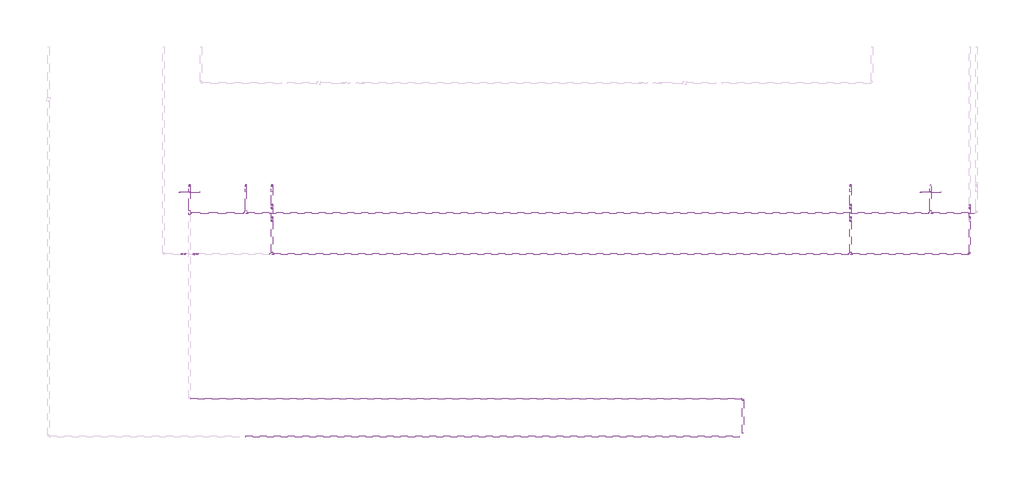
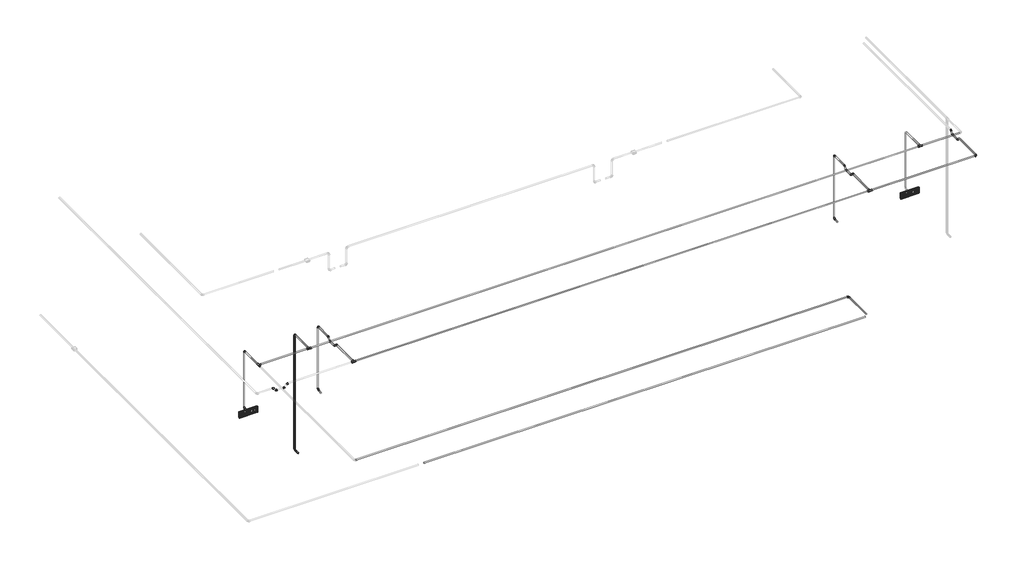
# One storey, part 3 of 13: 35 cable carrier segments, 30 cable carrier fittings, 2 alarms.
"""IFC4 building model written with IfcOpenShell, lengths in millimetres."""

from ifc_helpers import new_model, si_unit, point, frame, frame_2d, origin, place, context, project, spatial, circle_curve, trimmed, segment, composite_curve, outline, extrude, transform, mapped, element, save
from components import alarm_4b7e8fd8, cable_carrier_fitting_69f1a801, cable_carrier_fitting_8122f9af, cable_carrier_fitting_8fd13dfc

model = new_model("IFC4")

# Units and contexts
model_context = context("Model", 3, world=origin())
ifc_project = project(units=[si_unit("LENGTHUNIT", "METRE", prefix="MILLI")], contexts=[model_context])

# Site, building, storey
site = spatial("IfcSite", under=ifc_project)
building = spatial("IfcBuilding", under=site)
storey = spatial("IfcBuildingStorey", under=building, Name="2 этаж", Elevation=3500.0)

# Alarms
placement = place(None, origin())
alarm_shape = alarm_4b7e8fd8(model_context)
element("IfcAlarm", 1, ObjectType="RBZ_Оповещатель_Световой_Рубеж_ОПОП1-R3(грань) : ОПОП 1-R3 \"Выход\"", at=placement, inside=storey, context=model_context, shape_type="MappedRepresentation", body=[
    mapped(alarm_shape, transform((8337.6759979, -195.3629895, 6000.0), x_axis=(1.0, 0.0, 0.0), y_axis=(0.0, 0.0, 1.0), z_axis=(0.0, -1.0, 0.0))),
])
element("IfcAlarm", 2, ObjectType="RBZ_Оповещатель_Световой_Рубеж_ОПОП1-R3(грань) : ОПОП 1-R3 \"Выход\"", at=placement, inside=storey, context=model_context, shape_type="MappedRepresentation", body=[
    mapped(alarm_shape, transform((19112.6759979, -195.3629895, 6000.0), x_axis=(1.0, 0.0, 0.0), y_axis=(0.0, 0.0, 1.0), z_axis=(0.0, -1.0, 0.0))),
])

# Cable carrier fittings
cable_carrier_fitting_shape = cable_carrier_fitting_69f1a801(model_context)
element("IfcCableCarrierFitting", 3, ObjectType="ADSK_Поворот_Минимальный размер : Неспецифицируемый", at=placement, inside=storey, context=model_context, shape_type="MappedRepresentation", body=[
    mapped(cable_carrier_fitting_shape, transform((16387.6759979, -3208.8629895, 6986.95), x_axis=(0.0, 1.0, 0.0), y_axis=(-1.0, 0.0, 0.0), z_axis=(0.0, 0.0, 1.0))),
])
element("IfcCableCarrierFitting", 4, ObjectType="ADSK_Поворот_Минимальный размер : Неспецифицируемый", at=placement, inside=storey, context=model_context, shape_type="MappedRepresentation", body=[
    mapped(cable_carrier_fitting_shape, transform((17947.6759979, -98.1631839, 5897.4861504), x_axis=(0.0, 1.0, 0.0), y_axis=(0.0, 0.0, 1.0), z_axis=(1.0, 0.0, 0.0))),
])
element("IfcCableCarrierFitting", 5, ObjectType="ADSK_Поворот_Минимальный размер : Неспецифицируемый", at=placement, inside=storey, context=model_context, shape_type="MappedRepresentation", body=[
    mapped(cable_carrier_fitting_shape, transform((17947.6759979, -98.1631839, 6990.0), x_axis=(0.0, 0.0, 1.0), y_axis=(0.0, -1.0, 0.0), z_axis=(1.0, 0.0, 0.0))),
])
element("IfcCableCarrierFitting", 6, ObjectType="ADSK_Поворот_Минимальный размер : Неспецифицируемый", at=placement, inside=storey, context=model_context, shape_type="MappedRepresentation", body=[
    mapped(cable_carrier_fitting_shape, transform((9537.6759979, -98.1631839, 5897.4861504), x_axis=(0.0, 1.0, 0.0), y_axis=(0.0, 0.0, 1.0), z_axis=(1.0, 0.0, 0.0))),
])
element("IfcCableCarrierFitting", 7, ObjectType="ADSK_Поворот_Минимальный размер : Неспецифицируемый", at=placement, inside=storey, context=model_context, shape_type="MappedRepresentation", body=[
    mapped(cable_carrier_fitting_shape, transform((9537.6759979, -98.1631839, 6990.0), x_axis=(0.0, 0.0, 1.0), y_axis=(0.0, -1.0, 0.0), z_axis=(1.0, 0.0, 0.0))),
])
element("IfcCableCarrierFitting", 8, ObjectType="ADSK_Поворот_Минимальный размер : Неспецифицируемый", at=placement, inside=storey, context=model_context, shape_type="MappedRepresentation", body=[
    mapped(cable_carrier_fitting_shape, transform((8337.6759979, -98.1631839, 6000.0), x_axis=(0.0, 1.0, 0.0), y_axis=(0.0, 0.0, 1.0), z_axis=(1.0, 0.0, 0.0))),
])
element("IfcCableCarrierFitting", 9, ObjectType="ADSK_Поворот_Минимальный размер : Неспецифицируемый", at=placement, inside=storey, context=model_context, shape_type="MappedRepresentation", body=[
    mapped(cable_carrier_fitting_shape, transform((8337.6759979, -98.1631839, 6986.95), x_axis=(0.0, 0.0, 1.0), y_axis=(0.0, -1.0, 0.0), z_axis=(1.0, 0.0, 0.0))),
])
element("IfcCableCarrierFitting", 10, ObjectType="ADSK_Поворот_Минимальный размер : Неспецифицируемый", at=placement, inside=storey, context=model_context, shape_type="MappedRepresentation", body=[
    mapped(cable_carrier_fitting_shape, transform((9157.6759979, -98.1631839, 5000.0), x_axis=(0.0, 1.0, 0.0), y_axis=(0.0, 0.0, 1.0), z_axis=(1.0, 0.0, 0.0))),
])
element("IfcCableCarrierFitting", 11, ObjectType="ADSK_Поворот_Минимальный размер : Неспецифицируемый", at=placement, inside=storey, context=model_context, shape_type="MappedRepresentation", body=[
    mapped(cable_carrier_fitting_shape, transform((9157.6759979, -98.1631839, 6986.95), x_axis=(0.0, 0.0, 1.0), y_axis=(0.0, -1.0, 0.0), z_axis=(1.0, 0.0, 0.0))),
])
element("IfcCableCarrierFitting", 12, ObjectType="ADSK_Поворот_Минимальный размер : Неспецифицируемый", at=placement, inside=storey, context=model_context, shape_type="MappedRepresentation", body=[
    mapped(cable_carrier_fitting_shape, transform((19682.6759979, -1105.3629895, 6990.0), x_axis=(1.0, 0.0, 0.0), y_axis=(0.0, 1.0, 0.0), z_axis=(0.0, 0.0, 1.0))),
])
cable_carrier_fitting_2_shape = cable_carrier_fitting_8122f9af(model_context)
element("IfcCableCarrierFitting", 13, ObjectType="ADSK_Поворот_Минимальный размер : Неспецифицируемый", at=placement, inside=storey, context=model_context, shape_type="MappedRepresentation", body=[
    mapped(cable_carrier_fitting_2_shape, transform((8454.2482691, -1105.3629895, 6990.0), x_axis=(-1.0, 0.0, 0.0), y_axis=(0.0, 0.0, -1.0), z_axis=(0.0, -1.0, 0.0))),
])
element("IfcCableCarrierFitting", 14, ObjectType="ADSK_Поворот_Минимальный размер : Неспецифицируемый", at=placement, inside=storey, context=model_context, shape_type="MappedRepresentation", body=[
    mapped(cable_carrier_fitting_2_shape, transform((8404.2482691, -1105.3629895, 6940.0), x_axis=(-0.707106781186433, 0.0, -0.7071067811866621), y_axis=(-0.7071067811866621, 0.0, 0.707106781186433), z_axis=(0.0, 1.0, 0.0))),
])
element("IfcCableCarrierFitting", 15, ObjectType="ADSK_Поворот_Минимальный размер : Неспецифицируемый", at=placement, inside=storey, context=model_context, shape_type="MappedRepresentation", body=[
    mapped(cable_carrier_fitting_2_shape, transform((8277.6721838, -1105.3629895, 6940.0), x_axis=(-1.0, 0.0, 0.0), y_axis=(0.0, 0.0, 1.0), z_axis=(0.0, 1.0, 0.0))),
])
element("IfcCableCarrierFitting", 16, ObjectType="ADSK_Поворот_Минимальный размер : Неспецифицируемый", at=placement, inside=storey, context=model_context, shape_type="MappedRepresentation", body=[
    mapped(cable_carrier_fitting_2_shape, transform((9537.6759979, -621.9352607, 6990.0), x_axis=(0.0, 1.0, 0.0), y_axis=(0.0, 0.0, -1.0), z_axis=(-1.0, 0.0, 0.0))),
])
element("IfcCableCarrierFitting", 17, ObjectType="ADSK_Поворот_Минимальный размер : Неспецифицируемый", at=placement, inside=storey, context=model_context, shape_type="MappedRepresentation", body=[
    mapped(cable_carrier_fitting_2_shape, transform((9537.6759979, -571.9352607, 6940.0), x_axis=(0.0, 0.7071067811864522, -0.7071067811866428), y_axis=(0.0, 0.7071067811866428, 0.7071067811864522), z_axis=(1.0, 0.0, 0.0))),
])
element("IfcCableCarrierFitting", 18, ObjectType="ADSK_Поворот_Минимальный размер : Неспецифицируемый", at=placement, inside=storey, context=model_context, shape_type="MappedRepresentation", body=[
    mapped(cable_carrier_fitting_2_shape, transform((9537.6759979, -438.7907182, 6940.0), x_axis=(0.0, 1.0, 0.0), y_axis=(0.0, 0.0, 1.0), z_axis=(1.0, 0.0, 0.0))),
])
element("IfcCableCarrierFitting", 19, ObjectType="ADSK_Поворот_Минимальный размер : Неспецифицируемый", at=placement, inside=storey, context=model_context, shape_type="MappedRepresentation", body=[
    mapped(cable_carrier_fitting_2_shape, transform((9537.6759979, -388.7907182, 6990.0), x_axis=(0.0, 0.7071067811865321, 0.707106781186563), y_axis=(0.0, 0.707106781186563, -0.7071067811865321), z_axis=(-1.0, 0.0, 0.0))),
])
element("IfcCableCarrierFitting", 20, ObjectType="ADSK_Поворот_Минимальный размер : Неспецифицируемый", at=placement, inside=storey, context=model_context, shape_type="MappedRepresentation", body=[
    mapped(cable_carrier_fitting_2_shape, transform((17947.6759979, -621.9352607, 6990.0), x_axis=(0.0, 1.0, 0.0), y_axis=(0.0, 0.0, -1.0), z_axis=(-1.0, 0.0, 0.0))),
])
element("IfcCableCarrierFitting", 21, ObjectType="ADSK_Поворот_Минимальный размер : Неспецифицируемый", at=placement, inside=storey, context=model_context, shape_type="MappedRepresentation", body=[
    mapped(cable_carrier_fitting_2_shape, transform((17947.6759979, -571.9352607, 6940.0), x_axis=(0.0, 0.7071067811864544, -0.7071067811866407), y_axis=(0.0, 0.7071067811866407, 0.7071067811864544), z_axis=(1.0, 0.0, 0.0))),
])
element("IfcCableCarrierFitting", 22, ObjectType="ADSK_Поворот_Минимальный размер : Неспецифицируемый", at=placement, inside=storey, context=model_context, shape_type="MappedRepresentation", body=[
    mapped(cable_carrier_fitting_2_shape, transform((17947.6759979, -438.7907182, 6940.0), x_axis=(0.0, 1.0, 0.0), y_axis=(0.0, 0.0, 1.0), z_axis=(1.0, 0.0, 0.0))),
])
element("IfcCableCarrierFitting", 23, ObjectType="ADSK_Поворот_Минимальный размер : Неспецифицируемый", at=placement, inside=storey, context=model_context, shape_type="MappedRepresentation", body=[
    mapped(cable_carrier_fitting_2_shape, transform((17947.6759979, -388.7907182, 6990.0), x_axis=(0.0, 0.7071067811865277, 0.7071067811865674), y_axis=(0.0, 0.7071067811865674, -0.7071067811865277), z_axis=(-1.0, 0.0, 0.0))),
])
element("IfcCableCarrierFitting", 24, ObjectType="ADSK_Поворот_Минимальный размер : Неспецифицируемый", at=placement, inside=storey, context=model_context, shape_type="MappedRepresentation", body=[
    mapped(cable_carrier_fitting_2_shape, transform((19682.6759979, -388.7907182, 6990.0), x_axis=(0.0, -1.0, 0.0), y_axis=(0.0, 0.0, -1.0), z_axis=(1.0, 0.0, 0.0))),
])
element("IfcCableCarrierFitting", 25, ObjectType="ADSK_Поворот_Минимальный размер : Неспецифицируемый", at=placement, inside=storey, context=model_context, shape_type="MappedRepresentation", body=[
    mapped(cable_carrier_fitting_2_shape, transform((19682.6759979, -438.7907182, 6940.0), x_axis=(0.0, -0.7071067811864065, -0.7071067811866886), y_axis=(0.0, -0.7071067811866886, 0.7071067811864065), z_axis=(-1.0, 0.0, 0.0))),
])
element("IfcCableCarrierFitting", 26, ObjectType="ADSK_Поворот_Минимальный размер : Неспецифицируемый", at=placement, inside=storey, context=model_context, shape_type="MappedRepresentation", body=[
    mapped(cable_carrier_fitting_2_shape, transform((19682.6759979, -571.9352607, 6940.0), x_axis=(0.0, -1.0, 0.0), y_axis=(0.0, 0.0, 1.0), z_axis=(-1.0, 0.0, 0.0))),
])
element("IfcCableCarrierFitting", 27, ObjectType="ADSK_Поворот_Минимальный размер : Неспецифицируемый", at=placement, inside=storey, context=model_context, shape_type="MappedRepresentation", body=[
    mapped(cable_carrier_fitting_2_shape, transform((8227.6721838, -1105.3629895, 6990.0), x_axis=(-0.7071067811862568, 0.0, 0.7071067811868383), y_axis=(-0.7071067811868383, 0.0, -0.7071067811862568), z_axis=(0.0, -1.0, 0.0))),
])
cable_carrier_fitting_3_shape = cable_carrier_fitting_8fd13dfc(model_context)
element("IfcCableCarrierFitting", 28, ObjectType="ADSK_Тройник : ПВХ", at=placement, inside=storey, context=model_context, shape_type="MappedRepresentation", body=[
    mapped(cable_carrier_fitting_3_shape, transform((8337.6759979, -505.3629895, 6986.95), x_axis=(0.0, 1.0, 0.0), y_axis=(-1.0, 0.0, 0.0), z_axis=(0.0, 0.0, 1.0))),
])
element("IfcCableCarrierFitting", 29, ObjectType="ADSK_Тройник : ПВХ", at=placement, inside=storey, context=model_context, shape_type="MappedRepresentation", body=[
    mapped(cable_carrier_fitting_3_shape, transform((9157.6759979, -505.3629895, 6986.95), x_axis=(-1.0, 0.0, 0.0), y_axis=(0.0, -1.0, 0.0), z_axis=(0.0, 0.0, 1.0))),
])
element("IfcCableCarrierFitting", 30, ObjectType="ADSK_Тройник : ПВХ", at=placement, inside=storey, context=model_context, shape_type="MappedRepresentation", body=[
    mapped(cable_carrier_fitting_3_shape, transform((19112.6759979, -505.3629895, 6986.95), x_axis=(-1.0, 0.0, 0.0), y_axis=(0.0, -1.0, 0.0), z_axis=(0.0, 0.0, 1.0))),
])
element("IfcCableCarrierFitting", 31, ObjectType="ADSK_Тройник : ПВХ", at=placement, inside=storey, context=model_context, shape_type="MappedRepresentation", body=[
    mapped(cable_carrier_fitting_3_shape, transform((17947.6759979, -1105.3629895, 6990.0), x_axis=(-1.0, 0.0, 0.0), y_axis=(0.0, -1.0, 0.0), z_axis=(0.0, 0.0, 1.0))),
])
element("IfcCableCarrierFitting", 32, ObjectType="ADSK_Тройник : ПВХ", at=placement, inside=storey, context=model_context, shape_type="MappedRepresentation", body=[
    mapped(cable_carrier_fitting_3_shape, transform((9537.6759979, -1105.3629895, 6990.0), x_axis=(-1.0, 0.0, 0.0), y_axis=(0.0, -1.0, 0.0), z_axis=(0.0, 0.0, 1.0))),
])

# Cable carrier segments
element("IfcCableCarrierSegment", 33, ObjectType="Гофрированная труба", at=placement, inside=storey, context=model_context, shape_type="SweptSolid", body=[
    extrude(outline(composite_curve([segment(trimmed(circle_curve(frame_2d((-3755.3629895, 6986.95)), 10.0), [point((-3745.3629895, 6986.95))], [point((-3755.3629895, 6976.95))], False, "CARTESIAN"), True, "CONTINUOUS"), segment(trimmed(circle_curve(frame_2d((-3755.3629895, 6986.95)), 10.0), [point((-3755.3629895, 6976.95))], [point((-3765.3629895, 6986.95))], False, "CARTESIAN"), True, "CONTINUOUS"), segment(trimmed(circle_curve(frame_2d((-3755.3629895, 6986.95)), 10.0), [point((-3765.3629895, 6986.95))], [point((-3755.3629895, 6996.95))], False, "CARTESIAN"), True, "CONTINUOUS"), segment(trimmed(circle_curve(frame_2d((-3755.3629895, 6986.95)), 10.0), [point((-3755.3629895, 6996.95))], [point((-3745.3629895, 6986.95))], False, "CARTESIAN"), True, "CONTINUOUS")], self_intersect=False)), frame((9154.1759979, 0.0, 0.0), z_axis=(1.0, 0.0, 0.0), x_axis=(0.0, 1.0, 0.0)), (0.0, 0.0, 1.0), 7187.0),
])
element("IfcCableCarrierSegment", 34, ObjectType="Гофрированная труба", at=placement, inside=storey, context=model_context, shape_type="SweptSolid", body=[
    extrude(outline(composite_curve([segment(trimmed(circle_curve(frame_2d((6986.95, 16387.6759979)), 10.0), [point((6986.95, 16397.6759979))], [point((6996.95, 16387.6759979))], False, "CARTESIAN"), True, "CONTINUOUS"), segment(trimmed(circle_curve(frame_2d((6986.95, 16387.6759979)), 10.0), [point((6996.95, 16387.6759979))], [point((6986.95, 16377.6759979))], False, "CARTESIAN"), True, "CONTINUOUS"), segment(trimmed(circle_curve(frame_2d((6986.95, 16387.6759979)), 10.0), [point((6986.95, 16377.6759979))], [point((6976.95, 16387.6759979))], False, "CARTESIAN"), True, "CONTINUOUS"), segment(trimmed(circle_curve(frame_2d((6986.95, 16387.6759979)), 10.0), [point((6976.95, 16387.6759979))], [point((6986.95, 16397.6759979))], False, "CARTESIAN"), True, "CONTINUOUS")], self_intersect=False)), frame((0.0, -3708.8629895, 0.0), z_axis=(0.0, 1.0, 0.0), x_axis=(0.0, 0.0, 1.0)), (0.0, 0.0, 1.0), 479.0),
])
element("IfcCableCarrierSegment", 35, ObjectType="Гофрированная труба", at=placement, inside=storey, context=model_context, shape_type="SweptSolid", body=[
    extrude(outline(composite_curve([segment(trimmed(circle_curve(frame_2d((-3208.8629895, 6986.95)), 10.0), [point((-3198.8629895, 6986.95))], [point((-3208.8629895, 6976.95))], False, "CARTESIAN"), True, "CONTINUOUS"), segment(trimmed(circle_curve(frame_2d((-3208.8629895, 6986.95)), 10.0), [point((-3208.8629895, 6976.95))], [point((-3218.8629895, 6986.95))], False, "CARTESIAN"), True, "CONTINUOUS"), segment(trimmed(circle_curve(frame_2d((-3208.8629895, 6986.95)), 10.0), [point((-3218.8629895, 6986.95))], [point((-3208.8629895, 6996.95))], False, "CARTESIAN"), True, "CONTINUOUS"), segment(trimmed(circle_curve(frame_2d((-3208.8629895, 6986.95)), 10.0), [point((-3208.8629895, 6996.95))], [point((-3198.8629895, 6986.95))], False, "CARTESIAN"), True, "CONTINUOUS")], self_intersect=False)), frame((8358.6759979, 0.0, 0.0), z_axis=(1.0, 0.0, 0.0), x_axis=(0.0, 1.0, 0.0)), (0.0, 0.0, 1.0), 8008.0),
])
element("IfcCableCarrierSegment", 36, ObjectType="Гофрированная труба", at=placement, inside=storey, context=model_context, shape_type="SweptSolid", body=[
    extrude(outline(composite_curve([segment(trimmed(circle_curve(frame_2d((-505.3629895, 6986.95)), 10.0), [point((-515.3629895, 6986.95))], [point((-505.3629895, 6996.95))], False, "CARTESIAN"), True, "CONTINUOUS"), segment(trimmed(circle_curve(frame_2d((-505.3629895, 6986.95)), 10.0), [point((-505.3629895, 6996.95))], [point((-495.3629895, 6986.95))], False, "CARTESIAN"), True, "CONTINUOUS"), segment(trimmed(circle_curve(frame_2d((-505.3629895, 6986.95)), 10.0), [point((-495.3629895, 6986.95))], [point((-505.3629895, 6976.95))], False, "CARTESIAN"), True, "CONTINUOUS"), segment(trimmed(circle_curve(frame_2d((-505.3629895, 6986.95)), 10.0), [point((-505.3629895, 6976.95))], [point((-515.3629895, 6986.95))], False, "CARTESIAN"), True, "CONTINUOUS")], self_intersect=False)), frame((19142.6759979, 0.0, 0.0), z_axis=(1.0, 0.0, 0.0), x_axis=(0.0, 1.0, 0.0)), (0.0, 0.0, 1.0), 619.0),
])
element("IfcCableCarrierSegment", 37, ObjectType="Гофрированная труба", at=placement, inside=storey, context=model_context, shape_type="SweptSolid", body=[
    extrude(outline(composite_curve([segment(trimmed(circle_curve(frame_2d((-505.3629895, 6986.95)), 10.0), [point((-515.3629895, 6986.95))], [point((-505.3629895, 6996.95))], False, "CARTESIAN"), True, "CONTINUOUS"), segment(trimmed(circle_curve(frame_2d((-505.3629895, 6986.95)), 10.0), [point((-505.3629895, 6996.95))], [point((-495.3629895, 6986.95))], False, "CARTESIAN"), True, "CONTINUOUS"), segment(trimmed(circle_curve(frame_2d((-505.3629895, 6986.95)), 10.0), [point((-495.3629895, 6986.95))], [point((-505.3629895, 6976.95))], False, "CARTESIAN"), True, "CONTINUOUS"), segment(trimmed(circle_curve(frame_2d((-505.3629895, 6986.95)), 10.0), [point((-505.3629895, 6976.95))], [point((-515.3629895, 6986.95))], False, "CARTESIAN"), True, "CONTINUOUS")], self_intersect=False)), frame((8367.6759979, 0.0, 0.0), z_axis=(1.0, 0.0, 0.0), x_axis=(0.0, 1.0, 0.0)), (0.0, 0.0, 1.0), 760.0),
])
element("IfcCableCarrierSegment", 38, ObjectType="Гофрированная труба", at=placement, inside=storey, context=model_context, shape_type="SweptSolid", body=[
    extrude(outline(composite_curve([segment(trimmed(circle_curve(frame_2d((-505.3629895, 6986.95)), 10.0), [point((-515.3629895, 6986.95))], [point((-505.3629895, 6996.95))], False, "CARTESIAN"), True, "CONTINUOUS"), segment(trimmed(circle_curve(frame_2d((-505.3629895, 6986.95)), 10.0), [point((-505.3629895, 6996.95))], [point((-495.3629895, 6986.95))], False, "CARTESIAN"), True, "CONTINUOUS"), segment(trimmed(circle_curve(frame_2d((-505.3629895, 6986.95)), 10.0), [point((-495.3629895, 6986.95))], [point((-505.3629895, 6976.95))], False, "CARTESIAN"), True, "CONTINUOUS"), segment(trimmed(circle_curve(frame_2d((-505.3629895, 6986.95)), 10.0), [point((-505.3629895, 6976.95))], [point((-515.3629895, 6986.95))], False, "CARTESIAN"), True, "CONTINUOUS")], self_intersect=False)), frame((9187.6759979, 0.0, 0.0), z_axis=(1.0, 0.0, 0.0), x_axis=(0.0, 1.0, 0.0)), (0.0, 0.0, 1.0), 9895.0),
])
element("IfcCableCarrierSegment", 39, ObjectType="Гофрированная труба", at=placement, inside=storey, context=model_context, shape_type="SweptSolid", body=[
    extrude(outline(composite_curve([segment(trimmed(circle_curve(frame_2d((6940.0, 19682.6759979)), 10.0), [point((6940.0, 19672.6759979))], [point((6930.0, 19682.6759979))], False, "CARTESIAN"), True, "CONTINUOUS"), segment(trimmed(circle_curve(frame_2d((6940.0, 19682.6759979)), 10.0), [point((6930.0, 19682.6759979))], [point((6940.0, 19692.6759979))], False, "CARTESIAN"), True, "CONTINUOUS"), segment(trimmed(circle_curve(frame_2d((6940.0, 19682.6759979)), 10.0), [point((6940.0, 19692.6759979))], [point((6950.0, 19682.6759979))], False, "CARTESIAN"), True, "CONTINUOUS"), segment(trimmed(circle_curve(frame_2d((6940.0, 19682.6759979)), 10.0), [point((6950.0, 19682.6759979))], [point((6940.0, 19672.6759979))], False, "CARTESIAN"), True, "CONTINUOUS")], self_intersect=False)), frame((0.0, -562.6509895, 0.0), z_axis=(0.0, 1.0, 0.0), x_axis=(0.0, 0.0, 1.0)), (0.0, 0.0, 1.0), 114.576),
])
element("IfcCableCarrierSegment", 40, ObjectType="Гофрированная труба", at=placement, inside=storey, context=model_context, shape_type="SweptSolid", body=[
    extrude(outline(composite_curve([segment(trimmed(circle_curve(frame_2d((6940.0, 17947.6759979)), 10.0), [point((6940.0, 17957.6759979))], [point((6950.0, 17947.6759979))], False, "CARTESIAN"), True, "CONTINUOUS"), segment(trimmed(circle_curve(frame_2d((6940.0, 17947.6759979)), 10.0), [point((6950.0, 17947.6759979))], [point((6940.0, 17937.6759979))], False, "CARTESIAN"), True, "CONTINUOUS"), segment(trimmed(circle_curve(frame_2d((6940.0, 17947.6759979)), 10.0), [point((6940.0, 17937.6759979))], [point((6930.0, 17947.6759979))], False, "CARTESIAN"), True, "CONTINUOUS"), segment(trimmed(circle_curve(frame_2d((6940.0, 17947.6759979)), 10.0), [point((6930.0, 17947.6759979))], [point((6940.0, 17957.6759979))], False, "CARTESIAN"), True, "CONTINUOUS")], self_intersect=False)), frame((0.0, -562.6509895, 0.0), z_axis=(0.0, 1.0, 0.0), x_axis=(0.0, 0.0, 1.0)), (0.0, 0.0, 1.0), 114.576),
])
element("IfcCableCarrierSegment", 41, ObjectType="Гофрированная труба", at=placement, inside=storey, context=model_context, shape_type="SweptSolid", body=[
    extrude(outline(composite_curve([segment(trimmed(circle_curve(frame_2d((5897.4861504, 17947.6759979)), 10.0), [point((5897.4861504, 17957.6759979))], [point((5907.4861504, 17947.6759979))], False, "CARTESIAN"), True, "CONTINUOUS"), segment(trimmed(circle_curve(frame_2d((5897.4861504, 17947.6759979)), 10.0), [point((5907.4861504, 17947.6759979))], [point((5897.4861504, 17937.6759979))], False, "CARTESIAN"), True, "CONTINUOUS"), segment(trimmed(circle_curve(frame_2d((5897.4861504, 17947.6759979)), 10.0), [point((5897.4861504, 17937.6759979))], [point((5887.4861504, 17947.6759979))], False, "CARTESIAN"), True, "CONTINUOUS"), segment(trimmed(circle_curve(frame_2d((5897.4861504, 17947.6759979)), 10.0), [point((5887.4861504, 17947.6759979))], [point((5897.4861504, 17957.6759979))], False, "CARTESIAN"), True, "CONTINUOUS")], self_intersect=False)), frame((0.0, -195.3629895, 0.0), z_axis=(0.0, 1.0, 0.0), x_axis=(0.0, 0.0, 1.0)), (0.0, 0.0, 1.0), 76.1998056),
])
element("IfcCableCarrierSegment", 42, ObjectType="Гофрированная труба", at=placement, inside=storey, context=model_context, shape_type="SweptSolid", body=[
    extrude(outline(composite_curve([segment(trimmed(circle_curve(frame_2d((17947.6759979, -98.1631839)), 10.0), [point((17937.6759979, -98.1631839))], [point((17947.6759979, -88.1631839))], False, "CARTESIAN"), True, "CONTINUOUS"), segment(trimmed(circle_curve(frame_2d((17947.6759979, -98.1631839)), 10.0), [point((17947.6759979, -88.1631839))], [point((17957.6759979, -98.1631839))], False, "CARTESIAN"), True, "CONTINUOUS"), segment(trimmed(circle_curve(frame_2d((17947.6759979, -98.1631839)), 10.0), [point((17957.6759979, -98.1631839))], [point((17947.6759979, -108.1631839))], False, "CARTESIAN"), True, "CONTINUOUS"), segment(trimmed(circle_curve(frame_2d((17947.6759979, -98.1631839)), 10.0), [point((17947.6759979, -108.1631839))], [point((17937.6759979, -98.1631839))], False, "CARTESIAN"), True, "CONTINUOUS")], self_intersect=False)), frame((0.0, 0.0, 5918.4861504), z_axis=(0.0, 0.0, 1.0), x_axis=(1.0, 0.0, 0.0)), (0.0, 0.0, 1.0), 1050.5138496),
])
element("IfcCableCarrierSegment", 43, ObjectType="Гофрированная труба", at=placement, inside=storey, context=model_context, shape_type="SweptSolid", body=[
    extrude(outline(composite_curve([segment(trimmed(circle_curve(frame_2d((-1105.3629895, 6990.0)), 10.0), [point((-1095.3629895, 6990.0))], [point((-1105.3629895, 6980.0))], False, "CARTESIAN"), True, "CONTINUOUS"), segment(trimmed(circle_curve(frame_2d((-1105.3629895, 6990.0)), 10.0), [point((-1105.3629895, 6980.0))], [point((-1115.3629895, 6990.0))], False, "CARTESIAN"), True, "CONTINUOUS"), segment(trimmed(circle_curve(frame_2d((-1105.3629895, 6990.0)), 10.0), [point((-1115.3629895, 6990.0))], [point((-1105.3629895, 7000.0))], False, "CARTESIAN"), True, "CONTINUOUS"), segment(trimmed(circle_curve(frame_2d((-1105.3629895, 6990.0)), 10.0), [point((-1105.3629895, 7000.0))], [point((-1095.3629895, 6990.0))], False, "CARTESIAN"), True, "CONTINUOUS")], self_intersect=False)), frame((17977.6759979, 0.0, 0.0), z_axis=(1.0, 0.0, 0.0), x_axis=(0.0, 1.0, 0.0)), (0.0, 0.0, 1.0), 1684.0),
])
element("IfcCableCarrierSegment", 44, ObjectType="Гофрированная труба", at=placement, inside=storey, context=model_context, shape_type="SweptSolid", body=[
    extrude(outline(composite_curve([segment(trimmed(circle_curve(frame_2d((6940.0, 9537.6759979)), 10.0), [point((6940.0, 9547.6759979))], [point((6950.0, 9537.6759979))], False, "CARTESIAN"), True, "CONTINUOUS"), segment(trimmed(circle_curve(frame_2d((6940.0, 9537.6759979)), 10.0), [point((6950.0, 9537.6759979))], [point((6940.0, 9527.6759979))], False, "CARTESIAN"), True, "CONTINUOUS"), segment(trimmed(circle_curve(frame_2d((6940.0, 9537.6759979)), 10.0), [point((6940.0, 9527.6759979))], [point((6930.0, 9537.6759979))], False, "CARTESIAN"), True, "CONTINUOUS"), segment(trimmed(circle_curve(frame_2d((6940.0, 9537.6759979)), 10.0), [point((6930.0, 9537.6759979))], [point((6940.0, 9547.6759979))], False, "CARTESIAN"), True, "CONTINUOUS")], self_intersect=False)), frame((0.0, -562.6509895, 0.0), z_axis=(0.0, 1.0, 0.0), x_axis=(0.0, 0.0, 1.0)), (0.0, 0.0, 1.0), 114.576),
])
element("IfcCableCarrierSegment", 45, ObjectType="Гофрированная труба", at=placement, inside=storey, context=model_context, shape_type="SweptSolid", body=[
    extrude(outline(composite_curve([segment(trimmed(circle_curve(frame_2d((5897.4861504, 9537.6759979)), 10.0), [point((5897.4861504, 9547.6759979))], [point((5907.4861504, 9537.6759979))], False, "CARTESIAN"), True, "CONTINUOUS"), segment(trimmed(circle_curve(frame_2d((5897.4861504, 9537.6759979)), 10.0), [point((5907.4861504, 9537.6759979))], [point((5897.4861504, 9527.6759979))], False, "CARTESIAN"), True, "CONTINUOUS"), segment(trimmed(circle_curve(frame_2d((5897.4861504, 9537.6759979)), 10.0), [point((5897.4861504, 9527.6759979))], [point((5887.4861504, 9537.6759979))], False, "CARTESIAN"), True, "CONTINUOUS"), segment(trimmed(circle_curve(frame_2d((5897.4861504, 9537.6759979)), 10.0), [point((5887.4861504, 9537.6759979))], [point((5897.4861504, 9547.6759979))], False, "CARTESIAN"), True, "CONTINUOUS")], self_intersect=False)), frame((0.0, -195.3629895, 0.0), z_axis=(0.0, 1.0, 0.0), x_axis=(0.0, 0.0, 1.0)), (0.0, 0.0, 1.0), 76.1998056),
])
element("IfcCableCarrierSegment", 46, ObjectType="Гофрированная труба", at=placement, inside=storey, context=model_context, shape_type="SweptSolid", body=[
    extrude(outline(composite_curve([segment(trimmed(circle_curve(frame_2d((9537.6759979, -98.1631839)), 10.0), [point((9527.6759979, -98.1631839))], [point((9537.6759979, -88.1631839))], False, "CARTESIAN"), True, "CONTINUOUS"), segment(trimmed(circle_curve(frame_2d((9537.6759979, -98.1631839)), 10.0), [point((9537.6759979, -88.1631839))], [point((9547.6759979, -98.1631839))], False, "CARTESIAN"), True, "CONTINUOUS"), segment(trimmed(circle_curve(frame_2d((9537.6759979, -98.1631839)), 10.0), [point((9547.6759979, -98.1631839))], [point((9537.6759979, -108.1631839))], False, "CARTESIAN"), True, "CONTINUOUS"), segment(trimmed(circle_curve(frame_2d((9537.6759979, -98.1631839)), 10.0), [point((9537.6759979, -108.1631839))], [point((9527.6759979, -98.1631839))], False, "CARTESIAN"), True, "CONTINUOUS")], self_intersect=False)), frame((0.0, 0.0, 5918.4861504), z_axis=(0.0, 0.0, 1.0), x_axis=(1.0, 0.0, 0.0)), (0.0, 0.0, 1.0), 1050.5138496),
])
element("IfcCableCarrierSegment", 47, ObjectType="Гофрированная труба", at=placement, inside=storey, context=model_context, shape_type="SweptSolid", body=[
    extrude(outline(composite_curve([segment(trimmed(circle_curve(frame_2d((-1105.3629895, 6990.0)), 10.0), [point((-1095.3629895, 6990.0))], [point((-1105.3629895, 6980.0))], False, "CARTESIAN"), True, "CONTINUOUS"), segment(trimmed(circle_curve(frame_2d((-1105.3629895, 6990.0)), 10.0), [point((-1105.3629895, 6980.0))], [point((-1115.3629895, 6990.0))], False, "CARTESIAN"), True, "CONTINUOUS"), segment(trimmed(circle_curve(frame_2d((-1105.3629895, 6990.0)), 10.0), [point((-1115.3629895, 6990.0))], [point((-1105.3629895, 7000.0))], False, "CARTESIAN"), True, "CONTINUOUS"), segment(trimmed(circle_curve(frame_2d((-1105.3629895, 6990.0)), 10.0), [point((-1105.3629895, 7000.0))], [point((-1095.3629895, 6990.0))], False, "CARTESIAN"), True, "CONTINUOUS")], self_intersect=False)), frame((9567.6759979, 0.0, 0.0), z_axis=(1.0, 0.0, 0.0), x_axis=(0.0, 1.0, 0.0)), (0.0, 0.0, 1.0), 8350.0),
])
element("IfcCableCarrierSegment", 48, ObjectType="Гофрированная труба", at=placement, inside=storey, context=model_context, shape_type="SweptSolid", body=[
    extrude(outline(composite_curve([segment(trimmed(circle_curve(frame_2d((6990.0, 9537.6759979)), 10.0), [point((6990.0, 9547.6759979))], [point((7000.0, 9537.6759979))], False, "CARTESIAN"), True, "CONTINUOUS"), segment(trimmed(circle_curve(frame_2d((6990.0, 9537.6759979)), 10.0), [point((7000.0, 9537.6759979))], [point((6990.0, 9527.6759979))], False, "CARTESIAN"), True, "CONTINUOUS"), segment(trimmed(circle_curve(frame_2d((6990.0, 9537.6759979)), 10.0), [point((6990.0, 9527.6759979))], [point((6980.0, 9537.6759979))], False, "CARTESIAN"), True, "CONTINUOUS"), segment(trimmed(circle_curve(frame_2d((6990.0, 9537.6759979)), 10.0), [point((6980.0, 9537.6759979))], [point((6990.0, 9547.6759979))], False, "CARTESIAN"), True, "CONTINUOUS")], self_intersect=False)), frame((0.0, -1075.3629895, 0.0), z_axis=(0.0, 1.0, 0.0), x_axis=(0.0, 0.0, 1.0)), (0.0, 0.0, 1.0), 444.1434575),
])
element("IfcCableCarrierSegment", 49, ObjectType="Гофрированная труба", at=placement, inside=storey, context=model_context, shape_type="SweptSolid", body=[
    extrude(outline(composite_curve([segment(trimmed(circle_curve(frame_2d((0.0, -10.0)), 10.0), [point((10.0, -10.0))], [point((0.0, -20.0))], False, "CARTESIAN"), True, "CONTINUOUS"), segment(trimmed(circle_curve(frame_2d((0.0, -10.0)), 10.0), [point((0.0, -20.0))], [point((-10.0, -10.0))], False, "CARTESIAN"), True, "CONTINUOUS"), segment(trimmed(circle_curve(frame_2d((0.0, -10.0)), 10.0), [point((-10.0, -10.0))], [point((0.0, 0.0))], False, "CARTESIAN"), True, "CONTINUOUS"), segment(trimmed(circle_curve(frame_2d((0.0, -10.0)), 10.0), [point((0.0, 0.0))], [point((10.0, -10.0))], False, "CARTESIAN"), True, "CONTINUOUS")], self_intersect=False)), frame((9537.6759979, -571.4291641, 6953.636039), z_axis=(0.0, -0.707106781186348, 0.7071067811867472), x_axis=(1.0, 0.0, 0.0)), (0.0, 0.0, 1.0), 52.1421356),
])
element("IfcCableCarrierSegment", 50, ObjectType="Гофрированная труба", at=placement, inside=storey, context=model_context, shape_type="SweptSolid", body=[
    extrude(outline(composite_curve([segment(trimmed(circle_curve(frame_2d((6990.0, 9537.6759979)), 10.0), [point((6990.0, 9547.6759979))], [point((7000.0, 9537.6759979))], False, "CARTESIAN"), True, "CONTINUOUS"), segment(trimmed(circle_curve(frame_2d((6990.0, 9537.6759979)), 10.0), [point((7000.0, 9537.6759979))], [point((6990.0, 9527.6759979))], False, "CARTESIAN"), True, "CONTINUOUS"), segment(trimmed(circle_curve(frame_2d((6990.0, 9537.6759979)), 10.0), [point((6990.0, 9527.6759979))], [point((6980.0, 9537.6759979))], False, "CARTESIAN"), True, "CONTINUOUS"), segment(trimmed(circle_curve(frame_2d((6990.0, 9537.6759979)), 10.0), [point((6980.0, 9537.6759979))], [point((6990.0, 9547.6759979))], False, "CARTESIAN"), True, "CONTINUOUS")], self_intersect=False)), frame((0.0, -379.506447, 0.0), z_axis=(0.0, 1.0, 0.0), x_axis=(0.0, 0.0, 1.0)), (0.0, 0.0, 1.0), 260.3432631),
])
element("IfcCableCarrierSegment", 51, ObjectType="Гофрированная труба", at=placement, inside=storey, context=model_context, shape_type="SweptSolid", body=[
    extrude(outline(composite_curve([segment(trimmed(circle_curve(frame_2d((0.0, 10.0)), 10.0), [point((10.0, 10.0))], [point((0.0, 0.0))], False, "CARTESIAN"), True, "CONTINUOUS"), segment(trimmed(circle_curve(frame_2d((0.0, 10.0)), 10.0), [point((0.0, 0.0))], [point((-10.0, 10.0))], False, "CARTESIAN"), True, "CONTINUOUS"), segment(trimmed(circle_curve(frame_2d((0.0, 10.0)), 10.0), [point((-10.0, 10.0))], [point((0.0, 20.0))], False, "CARTESIAN"), True, "CONTINUOUS"), segment(trimmed(circle_curve(frame_2d((0.0, 10.0)), 10.0), [point((0.0, 20.0))], [point((10.0, 10.0))], False, "CARTESIAN"), True, "CONTINUOUS")], self_intersect=False)), frame((9537.6759979, -439.2968149, 6953.636039), z_axis=(0.0, 0.7071067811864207, 0.7071067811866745), x_axis=(1.0, 0.0, 0.0)), (0.0, 0.0, 1.0), 52.1421356),
])
element("IfcCableCarrierSegment", 52, ObjectType="Гофрированная труба", at=placement, inside=storey, context=model_context, shape_type="SweptSolid", body=[
    extrude(outline(composite_curve([segment(trimmed(circle_curve(frame_2d((6990.0, 17947.6759979)), 10.0), [point((6990.0, 17957.6759979))], [point((7000.0, 17947.6759979))], False, "CARTESIAN"), True, "CONTINUOUS"), segment(trimmed(circle_curve(frame_2d((6990.0, 17947.6759979)), 10.0), [point((7000.0, 17947.6759979))], [point((6990.0, 17937.6759979))], False, "CARTESIAN"), True, "CONTINUOUS"), segment(trimmed(circle_curve(frame_2d((6990.0, 17947.6759979)), 10.0), [point((6990.0, 17937.6759979))], [point((6980.0, 17947.6759979))], False, "CARTESIAN"), True, "CONTINUOUS"), segment(trimmed(circle_curve(frame_2d((6990.0, 17947.6759979)), 10.0), [point((6980.0, 17947.6759979))], [point((6990.0, 17957.6759979))], False, "CARTESIAN"), True, "CONTINUOUS")], self_intersect=False)), frame((0.0, -1075.3629895, 0.0), z_axis=(0.0, 1.0, 0.0), x_axis=(0.0, 0.0, 1.0)), (0.0, 0.0, 1.0), 444.1434575),
])
element("IfcCableCarrierSegment", 53, ObjectType="Гофрированная труба", at=placement, inside=storey, context=model_context, shape_type="SweptSolid", body=[
    extrude(outline(composite_curve([segment(trimmed(circle_curve(frame_2d((0.0, -10.0)), 10.0), [point((10.0, -10.0))], [point((0.0, -20.0))], False, "CARTESIAN"), True, "CONTINUOUS"), segment(trimmed(circle_curve(frame_2d((0.0, -10.0)), 10.0), [point((0.0, -20.0))], [point((-10.0, -10.0))], False, "CARTESIAN"), True, "CONTINUOUS"), segment(trimmed(circle_curve(frame_2d((0.0, -10.0)), 10.0), [point((-10.0, -10.0))], [point((0.0, 0.0))], False, "CARTESIAN"), True, "CONTINUOUS"), segment(trimmed(circle_curve(frame_2d((0.0, -10.0)), 10.0), [point((0.0, 0.0))], [point((10.0, -10.0))], False, "CARTESIAN"), True, "CONTINUOUS")], self_intersect=False)), frame((17947.6759979, -571.4291641, 6953.636039), z_axis=(0.0, -0.7071067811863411, 0.707106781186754), x_axis=(1.0, 0.0, 0.0)), (0.0, 0.0, 1.0), 52.1421356),
])
element("IfcCableCarrierSegment", 54, ObjectType="Гофрированная труба", at=placement, inside=storey, context=model_context, shape_type="SweptSolid", body=[
    extrude(outline(composite_curve([segment(trimmed(circle_curve(frame_2d((6990.0, 17947.6759979)), 10.0), [point((6990.0, 17957.6759979))], [point((7000.0, 17947.6759979))], False, "CARTESIAN"), True, "CONTINUOUS"), segment(trimmed(circle_curve(frame_2d((6990.0, 17947.6759979)), 10.0), [point((7000.0, 17947.6759979))], [point((6990.0, 17937.6759979))], False, "CARTESIAN"), True, "CONTINUOUS"), segment(trimmed(circle_curve(frame_2d((6990.0, 17947.6759979)), 10.0), [point((6990.0, 17937.6759979))], [point((6980.0, 17947.6759979))], False, "CARTESIAN"), True, "CONTINUOUS"), segment(trimmed(circle_curve(frame_2d((6990.0, 17947.6759979)), 10.0), [point((6980.0, 17947.6759979))], [point((6990.0, 17957.6759979))], False, "CARTESIAN"), True, "CONTINUOUS")], self_intersect=False)), frame((0.0, -379.506447, 0.0), z_axis=(0.0, 1.0, 0.0), x_axis=(0.0, 0.0, 1.0)), (0.0, 0.0, 1.0), 260.3432631),
])
element("IfcCableCarrierSegment", 55, ObjectType="Гофрированная труба", at=placement, inside=storey, context=model_context, shape_type="SweptSolid", body=[
    extrude(outline(composite_curve([segment(trimmed(circle_curve(frame_2d((0.0, 10.0)), 10.0), [point((10.0, 10.0))], [point((0.0, 0.0))], False, "CARTESIAN"), True, "CONTINUOUS"), segment(trimmed(circle_curve(frame_2d((0.0, 10.0)), 10.0), [point((0.0, 0.0))], [point((-10.0, 10.0))], False, "CARTESIAN"), True, "CONTINUOUS"), segment(trimmed(circle_curve(frame_2d((0.0, 10.0)), 10.0), [point((-10.0, 10.0))], [point((0.0, 20.0))], False, "CARTESIAN"), True, "CONTINUOUS"), segment(trimmed(circle_curve(frame_2d((0.0, 10.0)), 10.0), [point((0.0, 20.0))], [point((10.0, 10.0))], False, "CARTESIAN"), True, "CONTINUOUS")], self_intersect=False)), frame((17947.6759979, -439.2968149, 6953.636039), z_axis=(0.0, 0.7071067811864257, 0.7071067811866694), x_axis=(1.0, 0.0, 0.0)), (0.0, 0.0, 1.0), 52.1421356),
])
element("IfcCableCarrierSegment", 56, ObjectType="Гофрированная труба", at=placement, inside=storey, context=model_context, shape_type="SweptSolid", body=[
    extrude(outline(composite_curve([segment(trimmed(circle_curve(frame_2d((0.0, -10.0000001)), 10.0), [point((-10.0, -10.0000001))], [point((0.0, 0.0))], False, "CARTESIAN"), True, "CONTINUOUS"), segment(trimmed(circle_curve(frame_2d((0.0, -10.0000001)), 10.0), [point((0.0, 0.0))], [point((10.0, -10.0000001))], False, "CARTESIAN"), True, "CONTINUOUS"), segment(trimmed(circle_curve(frame_2d((0.0, -10.0000001)), 10.0), [point((10.0, -10.0000001))], [point((0.0, -20.0))], False, "CARTESIAN"), True, "CONTINUOUS"), segment(trimmed(circle_curve(frame_2d((0.0, -10.0000001)), 10.0), [point((0.0, -20.0))], [point((-10.0, -10.0000001))], False, "CARTESIAN"), True, "CONTINUOUS")], self_intersect=False)), frame((19682.6759979, -425.1546793, 6939.4939033), z_axis=(0.0, 0.707106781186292, 0.707106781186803), x_axis=(1.0, 0.0, 0.0)), (0.0, 0.0, 1.0), 52.1421356),
])
element("IfcCableCarrierSegment", 57, ObjectType="Гофрированная труба", at=placement, inside=storey, context=model_context, shape_type="SweptSolid", body=[
    extrude(outline(composite_curve([segment(trimmed(circle_curve(frame_2d((6990.0, 19682.6759979)), 10.0), [point((6990.0, 19672.6759979))], [point((6980.0, 19682.6759979))], False, "CARTESIAN"), True, "CONTINUOUS"), segment(trimmed(circle_curve(frame_2d((6990.0, 19682.6759979)), 10.0), [point((6980.0, 19682.6759979))], [point((6990.0, 19692.6759979))], False, "CARTESIAN"), True, "CONTINUOUS"), segment(trimmed(circle_curve(frame_2d((6990.0, 19682.6759979)), 10.0), [point((6990.0, 19692.6759979))], [point((7000.0, 19682.6759979))], False, "CARTESIAN"), True, "CONTINUOUS"), segment(trimmed(circle_curve(frame_2d((6990.0, 19682.6759979)), 10.0), [point((7000.0, 19682.6759979))], [point((6990.0, 19672.6759979))], False, "CARTESIAN"), True, "CONTINUOUS")], self_intersect=False)), frame((0.0, -1084.3629895, 0.0), z_axis=(0.0, 1.0, 0.0), x_axis=(0.0, 0.0, 1.0)), (0.0, 0.0, 1.0), 453.1434575),
])
element("IfcCableCarrierSegment", 58, ObjectType="Гофрированная труба", at=placement, inside=storey, context=model_context, shape_type="SweptSolid", body=[
    extrude(outline(composite_curve([segment(trimmed(circle_curve(frame_2d((0.0, 10.0000001)), 10.0), [point((-10.0, 10.0000001))], [point((0.0, 20.0))], False, "CARTESIAN"), True, "CONTINUOUS"), segment(trimmed(circle_curve(frame_2d((0.0, 10.0000001)), 10.0), [point((0.0, 20.0))], [point((10.0, 10.0000001))], False, "CARTESIAN"), True, "CONTINUOUS"), segment(trimmed(circle_curve(frame_2d((0.0, 10.0000001)), 10.0), [point((10.0, 10.0000001))], [point((0.0, 0.0))], False, "CARTESIAN"), True, "CONTINUOUS"), segment(trimmed(circle_curve(frame_2d((0.0, 10.0000001)), 10.0), [point((0.0, 0.0))], [point((-10.0, 10.0000001))], False, "CARTESIAN"), True, "CONTINUOUS")], self_intersect=False)), frame((19682.6759979, -585.5712997, 6939.4939033), z_axis=(0.0, -0.7071067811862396, 0.7071067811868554), x_axis=(1.0, 0.0, 0.0)), (0.0, 0.0, 1.0), 52.1421356),
])
element("IfcCableCarrierSegment", 59, ObjectType="Гофрированная труба", at=placement, inside=storey, context=model_context, shape_type="SweptSolid", body=[
    extrude(outline(composite_curve([segment(trimmed(circle_curve(frame_2d((6986.95, 8337.6759979)), 10.0), [point((6986.95, 8347.6759979))], [point((6996.95, 8337.6759979))], False, "CARTESIAN"), True, "CONTINUOUS"), segment(trimmed(circle_curve(frame_2d((6986.95, 8337.6759979)), 10.0), [point((6996.95, 8337.6759979))], [point((6986.95, 8327.6759979))], False, "CARTESIAN"), True, "CONTINUOUS"), segment(trimmed(circle_curve(frame_2d((6986.95, 8337.6759979)), 10.0), [point((6986.95, 8327.6759979))], [point((6976.95, 8337.6759979))], False, "CARTESIAN"), True, "CONTINUOUS"), segment(trimmed(circle_curve(frame_2d((6986.95, 8337.6759979)), 10.0), [point((6976.95, 8337.6759979))], [point((6986.95, 8347.6759979))], False, "CARTESIAN"), True, "CONTINUOUS")], self_intersect=False)), frame((0.0, -475.3629895, 0.0), z_axis=(0.0, 1.0, 0.0), x_axis=(0.0, 0.0, 1.0)), (0.0, 0.0, 1.0), 356.1998056),
])
element("IfcCableCarrierSegment", 60, ObjectType="Гофрированная труба", at=placement, inside=storey, context=model_context, shape_type="SweptSolid", body=[
    extrude(outline(composite_curve([segment(trimmed(circle_curve(frame_2d((6000.0, 8337.6759979)), 10.0), [point((6000.0, 8347.6759979))], [point((6010.0, 8337.6759979))], False, "CARTESIAN"), True, "CONTINUOUS"), segment(trimmed(circle_curve(frame_2d((6000.0, 8337.6759979)), 10.0), [point((6010.0, 8337.6759979))], [point((6000.0, 8327.6759979))], False, "CARTESIAN"), True, "CONTINUOUS"), segment(trimmed(circle_curve(frame_2d((6000.0, 8337.6759979)), 10.0), [point((6000.0, 8327.6759979))], [point((5990.0, 8337.6759979))], False, "CARTESIAN"), True, "CONTINUOUS"), segment(trimmed(circle_curve(frame_2d((6000.0, 8337.6759979)), 10.0), [point((5990.0, 8337.6759979))], [point((6000.0, 8347.6759979))], False, "CARTESIAN"), True, "CONTINUOUS")], self_intersect=False)), frame((0.0, -195.3629895, 0.0), z_axis=(0.0, 1.0, 0.0), x_axis=(0.0, 0.0, 1.0)), (0.0, 0.0, 1.0), 76.1998056),
])
element("IfcCableCarrierSegment", 61, ObjectType="Гофрированная труба", at=placement, inside=storey, context=model_context, shape_type="SweptSolid", body=[
    extrude(outline(composite_curve([segment(trimmed(circle_curve(frame_2d((8337.6759979, -98.1631839)), 10.0), [point((8327.6759979, -98.1631839))], [point((8337.6759979, -88.1631839))], False, "CARTESIAN"), True, "CONTINUOUS"), segment(trimmed(circle_curve(frame_2d((8337.6759979, -98.1631839)), 10.0), [point((8337.6759979, -88.1631839))], [point((8347.6759979, -98.1631839))], False, "CARTESIAN"), True, "CONTINUOUS"), segment(trimmed(circle_curve(frame_2d((8337.6759979, -98.1631839)), 10.0), [point((8347.6759979, -98.1631839))], [point((8337.6759979, -108.1631839))], False, "CARTESIAN"), True, "CONTINUOUS"), segment(trimmed(circle_curve(frame_2d((8337.6759979, -98.1631839)), 10.0), [point((8337.6759979, -108.1631839))], [point((8327.6759979, -98.1631839))], False, "CARTESIAN"), True, "CONTINUOUS")], self_intersect=False)), frame((0.0, 0.0, 6021.0), z_axis=(0.0, 0.0, 1.0), x_axis=(1.0, 0.0, 0.0)), (0.0, 0.0, 1.0), 944.95),
])
element("IfcCableCarrierSegment", 62, ObjectType="Гофрированная труба", at=placement, inside=storey, context=model_context, shape_type="SweptSolid", body=[
    extrude(outline(composite_curve([segment(trimmed(circle_curve(frame_2d((6986.95, 9157.6759979)), 10.0), [point((6986.95, 9167.6759979))], [point((6996.95, 9157.6759979))], False, "CARTESIAN"), True, "CONTINUOUS"), segment(trimmed(circle_curve(frame_2d((6986.95, 9157.6759979)), 10.0), [point((6996.95, 9157.6759979))], [point((6986.95, 9147.6759979))], False, "CARTESIAN"), True, "CONTINUOUS"), segment(trimmed(circle_curve(frame_2d((6986.95, 9157.6759979)), 10.0), [point((6986.95, 9147.6759979))], [point((6976.95, 9157.6759979))], False, "CARTESIAN"), True, "CONTINUOUS"), segment(trimmed(circle_curve(frame_2d((6986.95, 9157.6759979)), 10.0), [point((6976.95, 9157.6759979))], [point((6986.95, 9167.6759979))], False, "CARTESIAN"), True, "CONTINUOUS")], self_intersect=False)), frame((0.0, -475.3629895, 0.0), z_axis=(0.0, 1.0, 0.0), x_axis=(0.0, 0.0, 1.0)), (0.0, 0.0, 1.0), 356.1998056),
])
element("IfcCableCarrierSegment", 63, ObjectType="Гофрированная труба", at=placement, inside=storey, context=model_context, shape_type="SweptSolid", body=[
    extrude(outline(composite_curve([segment(trimmed(circle_curve(frame_2d((5000.0, 9157.6759979)), 10.0), [point((5000.0, 9167.6759979))], [point((5010.0, 9157.6759979))], False, "CARTESIAN"), True, "CONTINUOUS"), segment(trimmed(circle_curve(frame_2d((5000.0, 9157.6759979)), 10.0), [point((5010.0, 9157.6759979))], [point((5000.0, 9147.6759979))], False, "CARTESIAN"), True, "CONTINUOUS"), segment(trimmed(circle_curve(frame_2d((5000.0, 9157.6759979)), 10.0), [point((5000.0, 9147.6759979))], [point((4990.0, 9157.6759979))], False, "CARTESIAN"), True, "CONTINUOUS"), segment(trimmed(circle_curve(frame_2d((5000.0, 9157.6759979)), 10.0), [point((4990.0, 9157.6759979))], [point((5000.0, 9167.6759979))], False, "CARTESIAN"), True, "CONTINUOUS")], self_intersect=False)), frame((0.0, -195.3629895, 0.0), z_axis=(0.0, 1.0, 0.0), x_axis=(0.0, 0.0, 1.0)), (0.0, 0.0, 1.0), 76.1998056),
])
element("IfcCableCarrierSegment", 64, ObjectType="Гофрированная труба", at=placement, inside=storey, context=model_context, shape_type="SweptSolid", body=[
    extrude(outline(composite_curve([segment(trimmed(circle_curve(frame_2d((9157.6759979, -98.1631839)), 10.0), [point((9147.6759979, -98.1631839))], [point((9157.6759979, -88.1631839))], False, "CARTESIAN"), True, "CONTINUOUS"), segment(trimmed(circle_curve(frame_2d((9157.6759979, -98.1631839)), 10.0), [point((9157.6759979, -88.1631839))], [point((9167.6759979, -98.1631839))], False, "CARTESIAN"), True, "CONTINUOUS"), segment(trimmed(circle_curve(frame_2d((9157.6759979, -98.1631839)), 10.0), [point((9167.6759979, -98.1631839))], [point((9157.6759979, -108.1631839))], False, "CARTESIAN"), True, "CONTINUOUS"), segment(trimmed(circle_curve(frame_2d((9157.6759979, -98.1631839)), 10.0), [point((9157.6759979, -108.1631839))], [point((9147.6759979, -98.1631839))], False, "CARTESIAN"), True, "CONTINUOUS")], self_intersect=False)), frame((0.0, 0.0, 5021.0), z_axis=(0.0, 0.0, 1.0), x_axis=(1.0, 0.0, 0.0)), (0.0, 0.0, 1.0), 1944.95),
])
element("IfcCableCarrierSegment", 65, ObjectType="Гофрированная труба", at=placement, inside=storey, context=model_context, shape_type="SweptSolid", body=[
    extrude(outline(composite_curve([segment(trimmed(circle_curve(frame_2d((6986.95, 19112.6759979)), 10.0), [point((6986.95, 19122.6759979))], [point((6996.95, 19112.6759979))], False, "CARTESIAN"), True, "CONTINUOUS"), segment(trimmed(circle_curve(frame_2d((6986.95, 19112.6759979)), 10.0), [point((6996.95, 19112.6759979))], [point((6986.95, 19102.6759979))], False, "CARTESIAN"), True, "CONTINUOUS"), segment(trimmed(circle_curve(frame_2d((6986.95, 19112.6759979)), 10.0), [point((6986.95, 19102.6759979))], [point((6976.95, 19112.6759979))], False, "CARTESIAN"), True, "CONTINUOUS"), segment(trimmed(circle_curve(frame_2d((6986.95, 19112.6759979)), 10.0), [point((6976.95, 19112.6759979))], [point((6986.95, 19122.6759979))], False, "CARTESIAN"), True, "CONTINUOUS")], self_intersect=False)), frame((0.0, -475.3629895, 0.0), z_axis=(0.0, 1.0, 0.0), x_axis=(0.0, 0.0, 1.0)), (0.0, 0.0, 1.0), 356.1998056),
])
element("IfcCableCarrierSegment", 66, ObjectType="Гофрированная труба", at=placement, inside=storey, context=model_context, shape_type="SweptSolid", body=[
    extrude(outline(composite_curve([segment(trimmed(circle_curve(frame_2d((6000.0, 19112.6759979)), 10.0), [point((6000.0, 19122.6759979))], [point((6010.0, 19112.6759979))], False, "CARTESIAN"), True, "CONTINUOUS"), segment(trimmed(circle_curve(frame_2d((6000.0, 19112.6759979)), 10.0), [point((6010.0, 19112.6759979))], [point((6000.0, 19102.6759979))], False, "CARTESIAN"), True, "CONTINUOUS"), segment(trimmed(circle_curve(frame_2d((6000.0, 19112.6759979)), 10.0), [point((6000.0, 19102.6759979))], [point((5990.0, 19112.6759979))], False, "CARTESIAN"), True, "CONTINUOUS"), segment(trimmed(circle_curve(frame_2d((6000.0, 19112.6759979)), 10.0), [point((5990.0, 19112.6759979))], [point((6000.0, 19122.6759979))], False, "CARTESIAN"), True, "CONTINUOUS")], self_intersect=False)), frame((0.0, -195.3629895, 0.0), z_axis=(0.0, 1.0, 0.0), x_axis=(0.0, 0.0, 1.0)), (0.0, 0.0, 1.0), 76.1998056),
])
element("IfcCableCarrierSegment", 67, ObjectType="Гофрированная труба", at=placement, inside=storey, context=model_context, shape_type="SweptSolid", body=[
    extrude(outline(composite_curve([segment(trimmed(circle_curve(frame_2d((19112.6759979, -98.1631839)), 10.0), [point((19102.6759979, -98.1631839))], [point((19112.6759979, -88.1631839))], False, "CARTESIAN"), True, "CONTINUOUS"), segment(trimmed(circle_curve(frame_2d((19112.6759979, -98.1631839)), 10.0), [point((19112.6759979, -88.1631839))], [point((19122.6759979, -98.1631839))], False, "CARTESIAN"), True, "CONTINUOUS"), segment(trimmed(circle_curve(frame_2d((19112.6759979, -98.1631839)), 10.0), [point((19122.6759979, -98.1631839))], [point((19112.6759979, -108.1631839))], False, "CARTESIAN"), True, "CONTINUOUS"), segment(trimmed(circle_curve(frame_2d((19112.6759979, -98.1631839)), 10.0), [point((19112.6759979, -108.1631839))], [point((19102.6759979, -98.1631839))], False, "CARTESIAN"), True, "CONTINUOUS")], self_intersect=False)), frame((0.0, 0.0, 6021.0), z_axis=(0.0, 0.0, 1.0), x_axis=(1.0, 0.0, 0.0)), (0.0, 0.0, 1.0), 944.95),
])

save(model, "model.ifc")
